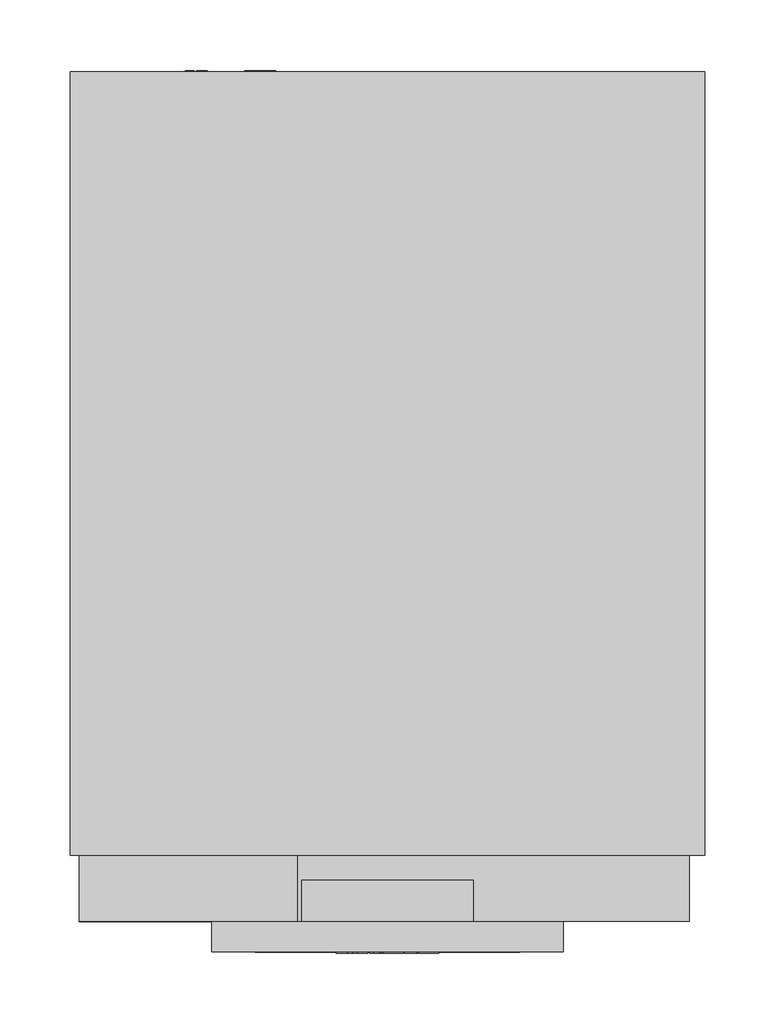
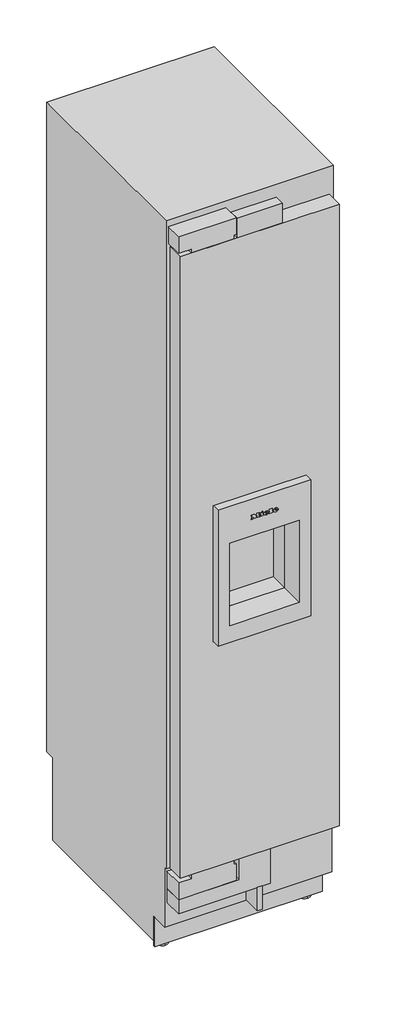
# Not in any storey: 1 proxy.
"""IFC4 building model written with IfcOpenShell, lengths in millimetres."""

import ifcopenshell
import ifcopenshell.guid

model = None  # the IFC model being written
_history = None  # IfcOwnerHistory: only IFC2X3 demands one
_inside = {}  # id of a spatial element -> (the spatial element, [elements in it])
_under = {}  # id of a project, library or spatial element -> (it, [spatial elements below it])
_declared = {}  # id of a project -> (the project, [libraries it declares])
_typed = {}  # id of a type object -> (the type object, [elements of that type])
_made_of = {}  # id of a material, layer set ... -> (it, [elements and type objects made of it])


def new_model(schema):
    """Start an empty IFC model of exactly this schema.

    Asked for "IFC4X3", IfcOpenShell would pick the latest addendum, in which some entities
    have other attributes; the version numbers below select the first issue.
    IFC2X3 requires an IfcOwnerHistory on every rooted entity: one is made here for all.
    """
    global model, _history
    if schema == "IFC4X3":
        model = ifcopenshell.file(schema_version=(4, 3, 0, 0))
    else:
        model = ifcopenshell.file(schema=schema)
    _inside.clear()
    _under.clear()
    _declared.clear()
    _typed.clear()
    _made_of.clear()
    _history = None
    if model.schema == "IFC2X3":
        org = make("IfcOrganization", Name="unknown")
        user = make(
            "IfcPersonAndOrganization",
            ThePerson=make("IfcPerson", FamilyName="unknown"),
            TheOrganization=org,
        )
        app = make(
            "IfcApplication",
            ApplicationDeveloper=org,
            Version="unknown",
            ApplicationFullName="unknown",
            ApplicationIdentifier="unknown",
        )
        _history = make(
            "IfcOwnerHistory",
            OwningUser=user,
            OwningApplication=app,
            ChangeAction="ADDED",
            CreationDate=0,
        )
    return model


def make(cls, **values):
    """One entity of the class cls with the attributes given. An attribute that is None is left unset."""
    return model.create_entity(
        cls, **{name: value for name, value in values.items() if value is not None}
    )


def rooted(cls, **values):
    """An entity with a GlobalId (a new one), such as an element, a storey or a relation."""
    return make(cls, GlobalId=ifcopenshell.guid.new(), OwnerHistory=_history, **values)


def si_unit(unit_type, name, prefix=None):
    """IfcSIUnit, for example si_unit("LENGTHUNIT", "METRE", prefix="MILLI")."""
    return make("IfcSIUnit", UnitType=unit_type, Prefix=prefix, Name=name)


def assignment(units):
    """IfcUnitAssignment: the units of a project."""
    return None if units is None else make("IfcUnitAssignment", Units=units)


def point(xyz):
    """IfcCartesianPoint."""
    return None if xyz is None else make("IfcCartesianPoint", Coordinates=xyz)


def direction(xyz):
    """IfcDirection."""
    return None if xyz is None else make("IfcDirection", DirectionRatios=xyz)


def frame(location, z_axis=None, x_axis=None):
    """IfcAxis2Placement3D, a coordinate frame: its origin and axes. An axis left out is left unset."""
    return make(
        "IfcAxis2Placement3D",
        Location=point(location),
        Axis=direction(z_axis),
        RefDirection=direction(x_axis),
    )


def frame_2d(location, x_axis=None):
    """IfcAxis2Placement2D, a coordinate frame in the plane: its origin and x axis."""
    return make(
        "IfcAxis2Placement2D", Location=point(location), RefDirection=direction(x_axis)
    )


def origin():
    """The frame at (0, 0, 0) with its axes left unset."""
    return frame((0.0, 0.0, 0.0))


def place(relative_to, where):
    """IfcLocalPlacement: puts the frame where relative to a parent placement (None: the world)."""
    return make(
        "IfcLocalPlacement", PlacementRelTo=relative_to, RelativePlacement=where
    )


def context(
    kind, dimensions, precision=None, world=None, true_north=None, identifier=None
):
    """IfcGeometricRepresentationContext, for example the 3D "Model" context."""
    return make(
        "IfcGeometricRepresentationContext",
        ContextIdentifier=identifier,
        ContextType=kind,
        CoordinateSpaceDimension=dimensions,
        Precision=precision,
        WorldCoordinateSystem=world,
        TrueNorth=true_north,
    )


def project(units=None, contexts=None):
    """IfcProject with its units and contexts."""
    return rooted(
        "IfcProject",
        Name="project",
        RepresentationContexts=contexts,
        UnitsInContext=assignment(units),
    )


def spatial(cls, under=None, at=None, **own):
    """A site, building, storey or space (cls), placed at a placement, below another one or the project."""
    s = rooted(cls, ObjectPlacement=at, **own)
    if under is not None:
        _under.setdefault(under.id(), (under, []))[1].append(s)
    return s


def polyline(points):
    """IfcPolyline through the points."""
    return make("IfcPolyline", Points=[point(p) for p in points])


def circle_curve(where, radius):
    """IfcCircle in the frame where."""
    return make("IfcCircle", Position=where, Radius=radius)


def ellipse_curve(where, semi_axis1, semi_axis2):
    """IfcEllipse in the frame where."""
    return make(
        "IfcEllipse", Position=where, SemiAxis1=semi_axis1, SemiAxis2=semi_axis2
    )


def trimmed(basis, trim1, trim2, sense, master):
    """IfcTrimmedCurve: the piece of a basis curve between two trims."""
    return make(
        "IfcTrimmedCurve",
        BasisCurve=basis,
        Trim1=trim1,
        Trim2=trim2,
        SenseAgreement=sense,
        MasterRepresentation=master,
    )


def segment(curve, same_sense, transition):
    """IfcCompositeCurveSegment."""
    return make(
        "IfcCompositeCurveSegment",
        Transition=transition,
        SameSense=same_sense,
        ParentCurve=curve,
    )


def composite_curve(segments, self_intersect=None):
    """IfcCompositeCurve: segments joined end to end."""
    return make("IfcCompositeCurve", Segments=segments, SelfIntersect=self_intersect)


def outline(outer, holes=None, kind="AREA"):
    """IfcArbitraryClosedProfileDef: a profile drawn as a closed curve; with holes, ...WithVoids."""
    if holes is None:
        return make("IfcArbitraryClosedProfileDef", ProfileType=kind, OuterCurve=outer)
    return make(
        "IfcArbitraryProfileDefWithVoids",
        ProfileType=kind,
        OuterCurve=outer,
        InnerCurves=holes,
    )


def extrude(swept, where, along, depth):
    """IfcExtrudedAreaSolid: the profile swept, set in the frame where, extruded along a direction by depth."""
    return make(
        "IfcExtrudedAreaSolid",
        SweptArea=swept,
        Position=where,
        ExtrudedDirection=direction(along),
        Depth=depth,
    )


def faces_of(points, faces, orient=None, outer=None):
    """IfcFace entities. A face is a list of loops; a loop is a list of indices into points, from 0.

    orient and outer hold one flag for each loop. By default every Orientation is true, the
    first loop of a face is its IfcFaceOuterBound and the others are IfcFaceBound.
    """
    made = []
    for i, loops in enumerate(faces):
        bounds = []
        for j, loop in enumerate(loops):
            is_outer = j == 0 if outer is None else outer[i][j]
            bounds.append(
                make(
                    "IfcFaceOuterBound" if is_outer else "IfcFaceBound",
                    Bound=make("IfcPolyLoop", Polygon=[points[k] for k in loop]),
                    Orientation=True if orient is None else orient[i][j],
                )
            )
        made.append(make("IfcFace", Bounds=bounds))
    return made


def faceted_brep(points, faces, orient=None, outer=None, voids=None):
    """IfcFacetedBrep: a solid bounded by flat faces; with voids (closed shells), ...WithVoids."""
    shared = [point(p) for p in points]
    hull = make("IfcClosedShell", CfsFaces=faces_of(shared, faces, orient, outer))
    if voids is None:
        return make("IfcFacetedBrep", Outer=hull)
    return make(
        "IfcFacetedBrepWithVoids",
        Outer=hull,
        Voids=[
            make(cls, CfsFaces=faces_of(shared, fs, o, b)) for cls, fs, o, b in voids
        ],
    )


def shape(context_of_items, identifier, shape_type, items):
    """IfcShapeRepresentation: the items that make up one representation, for example the "Body"."""
    return make(
        "IfcShapeRepresentation",
        ContextOfItems=context_of_items,
        RepresentationIdentifier=identifier,
        RepresentationType=shape_type,
        Items=items,
    )


def source(mapping_origin, context_of_items, identifier, shape_type, items):
    """IfcRepresentationMap: a shape defined once, which mapped items show again and again."""
    return make(
        "IfcRepresentationMap",
        MappingOrigin=mapping_origin,
        MappedRepresentation=shape(context_of_items, identifier, shape_type, items),
    )


def transform(
    local_origin,
    x_axis=None,
    y_axis=None,
    z_axis=None,
    scale=None,
    scale2=None,
    scale3=None,
    uniform=True,
):
    """IfcCartesianTransformationOperator3D, or its non-uniform kind. x_axis, y_axis, z_axis: its Axis1, 2, 3."""
    if uniform:
        return make(
            "IfcCartesianTransformationOperator3D",
            Axis1=direction(x_axis),
            Axis2=direction(y_axis),
            LocalOrigin=point(local_origin),
            Scale=scale,
            Axis3=direction(z_axis),
        )
    return make(
        "IfcCartesianTransformationOperator3DnonUniform",
        Axis1=direction(x_axis),
        Axis2=direction(y_axis),
        LocalOrigin=point(local_origin),
        Scale=scale,
        Axis3=direction(z_axis),
        Scale2=scale2,
        Scale3=scale3,
    )


def mapped(mapping_source, mapping_target):
    """IfcMappedItem: shows the shape of a source again, moved by a transform."""
    return make(
        "IfcMappedItem", MappingSource=mapping_source, MappingTarget=mapping_target
    )


def made_of(thing, what):
    """Note that an element or type object is made of a material, layer set ...; save() writes the relation."""
    if what is not None:
        _made_of.setdefault(what.id(), (what, []))[1].append(thing)
    return thing


def element(
    cls,
    number,
    at=None,
    inside=None,
    cuts=None,
    type_object=None,
    material=None,
    context=None,
    identifier="Body",
    shape_type=None,
    held_by="IfcProductDefinitionShape",
    body=None,
    shapes=None,
    **own,
):
    """One element of the class cls, such as IfcWall. Its Tag is "e" and its number.

    at: its placement. inside: the storey or other place that contains it. cuts: it is an
    opening in that element (IfcRelVoidsElement). A single representation is given by context,
    identifier, shape_type and body (its items); several are given by shapes. held_by: the class
    of the entity that holds the representations. save() writes the other relations.
    """
    e = rooted(cls, Tag="e%d" % number, ObjectPlacement=at, **own)
    if body is not None:
        shapes = [shape(context, identifier, shape_type, body)]
    if shapes is not None:
        e.Representation = make(held_by, Representations=shapes)
    if inside is not None:
        _inside.setdefault(inside.id(), (inside, []))[1].append(e)
    if cuts is not None:
        rooted(
            "IfcRelVoidsElement", RelatingBuildingElement=cuts, RelatedOpeningElement=e
        )
    if type_object is not None:
        _typed.setdefault(type_object.id(), (type_object, []))[1].append(e)
    return made_of(e, material)


def aggregate(whole, parts):
    """IfcRelAggregates: a whole, such as a stair, and the parts it consists of."""
    return rooted("IfcRelAggregates", RelatingObject=whole, RelatedObjects=parts)


def save(model, path):
    """Write the relations noted so far, then the file.

    IfcRelAggregates (storeys below a building ...), IfcRelContainedInSpatialStructure (elements
    in a storey), IfcRelDefinesByType, IfcRelAssociatesMaterial and IfcRelDeclares: one each for
    every whole, place, type object, material and project.
    """
    for whole, parts in _under.values():
        aggregate(whole, parts)
    for where, things in _inside.values():
        rooted(
            "IfcRelContainedInSpatialStructure",
            RelatedElements=things,
            RelatingStructure=where,
        )
    for kind, things in _typed.values():
        rooted("IfcRelDefinesByType", RelatedObjects=things, RelatingType=kind)
    for what, things in _made_of.values():
        rooted("IfcRelAssociatesMaterial", RelatedObjects=things, RelatingMaterial=what)
    for by, libraries in _declared.values():
        rooted("IfcRelDeclares", RelatingContext=by, RelatedDefinitions=libraries)
    model.write(path)


def plane_surface(at):
    """IfcPlane: the flat surface through the origin of the frame at, square to its z axis."""
    return make("IfcPlane", Position=at)


def cylinder_surface(at, radius):
    """IfcCylindricalSurface: all points at the distance radius from the z axis of the frame at."""
    return make("IfcCylindricalSurface", Position=at, Radius=radius)


def revolved_surface(curve, axis_point, axis_direction):
    """IfcSurfaceOfRevolution: the curve turned about the line through axis_point along axis_direction."""
    return make(
        "IfcSurfaceOfRevolution",
        SweptCurve=make("IfcArbitraryOpenProfileDef", ProfileType="CURVE", Curve=curve),
        AxisPosition=make("IfcAxis1Placement", Location=point(axis_point), Axis=direction(axis_direction)),
    )


def extruded_surface(curve, direction_of_extrusion, depth):
    """IfcSurfaceOfLinearExtrusion: the curve pushed along a direction by depth."""
    return make(
        "IfcSurfaceOfLinearExtrusion",
        SweptCurve=make("IfcArbitraryOpenProfileDef", ProfileType="CURVE", Curve=curve),
        ExtrudedDirection=direction(direction_of_extrusion),
        Depth=depth,
    )


def advanced_brep(points, edges, surfaces, faces):
    """IfcAdvancedBrep: a solid bounded by faces that lie on surfaces and meet in shared edges.

    An edge is (start, end): straight between two places in points (the first is 0);
    or (start, end, curve); or (start, end, curve, False) where it runs against its curve.
    A face is (place in surfaces, loops), or (place, loops, False) where it looks against
    its surface's normal. A loop lists edges by number (the first is 1), with a minus sign
    where the edge is run from its end to its start. The first loop is the outer one.
    """
    corners = [point(p) for p in points]
    vertices = [make("IfcVertexPoint", VertexGeometry=c) for c in corners]
    made = []
    for start, end, *more in edges:
        made.append(
            make(
                "IfcEdgeCurve",
                EdgeStart=vertices[start],
                EdgeEnd=vertices[end],
                EdgeGeometry=more[0] if more else make("IfcPolyline", Points=[corners[start], corners[end]]),
                SameSense=more[1] if len(more) > 1 else True,
            )
        )
    hull = []
    for where, loops, *sense in faces:
        bounds = []
        for j, loop in enumerate(loops):
            ring = [make("IfcOrientedEdge", EdgeElement=made[abs(k) - 1], Orientation=k > 0) for k in loop]
            bounds.append(
                make(
                    "IfcFaceOuterBound" if j == 0 else "IfcFaceBound",
                    Bound=make("IfcEdgeLoop", EdgeList=ring),
                    Orientation=True,
                )
            )
        hull.append(make("IfcAdvancedFace", Bounds=bounds, FaceSurface=surfaces[where], SameSense=sense[0] if sense else True))
    return make("IfcAdvancedBrep", Outer=make("IfcClosedShell", CfsFaces=hull))


def specialty_equipment_33c10941(model_context):
    return source(origin(), model_context, "Body", "SolidModel", [
        extrude(outline(polyline([(-6.5, 54.0), (6.5, 54.0), (6.5, 0.0), (-6.5, 0.0), (-6.5, 54.0)])), frame((0.0, 0.0, 99.0), z_axis=(0.0, 0.0, 1.0), x_axis=(1.0, 0.0, 0.0)), (0.0, 0.0, 1.0), 67.0),
        faceted_brep([(125.0, -21.7, 1295.0), (-125.0, -21.7, 1295.0), (-125.0, -21.7, 908.0), (125.0, -21.7, 908.0), (94.0, -21.7, 1190.0), (94.0, -21.7, 956.0), (-94.0, -21.7, 956.0), (-94.0, -21.7, 1190.0), (125.0, 47.0, 1295.0), (125.0, 47.0, 908.0), (-125.0, 47.0, 908.0), (-125.0, 47.0, 1295.0), (94.0, 47.0, 1190.0), (-94.0, 47.0, 1190.0), (-94.0, 47.0, 956.0), (94.0, 47.0, 956.0), (-94.0, -11.7943775, 1190.0), (94.0, -11.7943775, 1190.0), (-94.0, -11.7943775, 956.0), (94.0, -11.7943775, 956.0)], [[[0, 1, 2, 3], [4, 5, 6, 7]], [[8, 9, 10, 11], [12, 13, 14, 15]], [[0, 3, 9, 8]], [[3, 2, 10, 9]], [[2, 1, 11, 10]], [[1, 0, 8, 11]], [[4, 7, 16, 13, 12, 17]], [[7, 6, 18, 14, 13, 16]], [[6, 5, 19, 15, 14, 18]], [[5, 4, 17, 12, 15, 19]]]),
        extrude(outline(polyline([(2036.0, 214.5), (2036.0, -214.5), (265.0, -214.5), (265.0, 214.5), (2036.0, 214.5)]), holes=[polyline([(1295.0, 125.0), (908.0, 125.0), (908.0, -125.0), (1295.0, -125.0), (1295.0, 125.0)])]), frame((0.0, 0.0, 0.0), z_axis=(0.0, 1.0, 0.0), x_axis=(0.0, 0.0, 1.0)), (0.0, 0.0, 1.0), 47.0),
        faceted_brep([(-158.0, 47.0, 863.0), (-158.0, 47.0, 1335.0), (-158.0, 239.0, 1335.0), (-158.0, 239.0, 987.0), (-158.0, 140.0, 863.0), (158.0, 47.0, 863.0), (158.0, 140.0, 863.0), (158.0, 239.0, 987.0), (158.0, 239.0, 1335.0), (158.0, 47.0, 1335.0), (94.0, 47.0, 1190.0), (94.0, 47.0, 956.0), (-94.0, 47.0, 956.0), (-94.0, 47.0, 1190.0), (94.0, 100.0, 1190.0), (-94.0, 100.0, 1190.0), (-94.0, 100.0, 956.0), (94.0, 100.0, 956.0)], [[[0, 1, 2, 3, 4]], [[5, 6, 7, 8, 9]], [[0, 4, 6, 5]], [[4, 3, 7, 6]], [[3, 2, 8, 7]], [[2, 1, 9, 8]], [[1, 0, 5, 9], [10, 11, 12, 13]], [[14, 15, 16, 17]], [[14, 17, 11, 10]], [[17, 16, 12, 11]], [[16, 15, 13, 12]], [[15, 14, 10, 13]]]),
        extrude(outline(polyline([(-61.0, 29.0), (61.0, 29.0), (61.0, 0.0), (-61.0, 0.0), (-61.0, 29.0)])), frame((0.0, 0.0, 2036.0), z_axis=(0.0, 0.0, 1.0), x_axis=(1.0, 0.0, 0.0)), (0.0, 0.0, 1.0), 56.0),
        advanced_brep(
        [(28.472, -22.7, 1241.344), (28.472, -22.7, 1242.556), (36.5, -22.7, 1242.556), (22.532, -22.7, 1242.556), (25.832, -22.7, 1238.5), (36.296, -22.7, 1241.344), (32.672, -22.7, 1241.344), (29.816, -22.7, 1240.0), (28.472, -22.7, 1244.092), (28.472, -22.7, 1245.4), (30.524, -22.7, 1245.4), (30.524, -22.7, 1244.092), (28.472, -21.7, 1241.344), (29.816, -21.7, 1240.0), (32.672, -21.7, 1241.344), (36.296, -21.7, 1241.344), (25.832, -21.7, 1238.5), (22.532, -21.7, 1242.556), (36.5, -21.7, 1242.556), (28.472, -21.7, 1242.556), (28.472, -21.7, 1244.092), (30.524, -21.7, 1244.092), (30.524, -21.7, 1245.4), (28.472, -21.7, 1245.4)],
        [
            (0, 1),
            (1, 2),
            (2, 3, ellipse_curve(frame((29.516, -22.7, 1242.556), z_axis=(0.0, -1.0, 0.0), x_axis=(-1.0, 0.0, 0.0)), 6.984, 5.772)),
            (3, 4, circle_curve(frame((27.1760655, -22.7, 1242.964), z_axis=(0.0, -1.0, 0.0), x_axis=(0.0, 0.0, -1.0)), 4.6619532)),
            (4, 5, circle_curve(frame((29.3761904, -22.7, 1246.132), z_axis=(0.0, -1.0, 0.0), x_axis=(0.0, 0.0, -1.0)), 8.4147911)),
            (5, 6),
            (6, 7, circle_curve(frame((30.4025882, -22.7, 1242.46), z_axis=(0.0, 1.0, 0.0), x_axis=(0.0, 0.0, -1.0)), 2.5289693)),
            (7, 0, circle_curve(frame((29.816, -22.7, 1241.344), z_axis=(0.0, 1.0, 0.0), x_axis=(0.0, 0.0, -1.0)), 1.344)),
            (8, 9),
            (9, 10, circle_curve(frame((29.498, -22.7, 1245.4), z_axis=(0.0, 1.0, 0.0), x_axis=(0.0, 0.0, -1.0)), 1.026)),
            (10, 11),
            (11, 8),
            (12, 13, circle_curve(frame((29.816, -21.7, 1241.344), z_axis=(0.0, -1.0, 0.0), x_axis=(0.0, 0.0, -1.0)), 1.344)),
            (13, 14, circle_curve(frame((30.4025882, -21.7, 1242.46), z_axis=(0.0, -1.0, 0.0), x_axis=(0.0, 0.0, -1.0)), 2.5289693)),
            (14, 15),
            (15, 16, circle_curve(frame((29.3761904, -21.7, 1246.132), z_axis=(0.0, 1.0, 0.0), x_axis=(0.0, 0.0, -1.0)), 8.4147911)),
            (16, 17, circle_curve(frame((27.1760655, -21.7, 1242.964), z_axis=(0.0, 1.0, 0.0), x_axis=(0.0, 0.0, -1.0)), 4.6619532)),
            (17, 18, ellipse_curve(frame((29.516, -21.7, 1242.556), z_axis=(0.0, 1.0, 0.0), x_axis=(-1.0, 0.0, 0.0)), 6.984, 5.772)),
            (18, 19),
            (19, 12),
            (20, 21),
            (21, 22),
            (22, 23, circle_curve(frame((29.498, -21.7, 1245.4), z_axis=(0.0, -1.0, 0.0), x_axis=(0.0, 0.0, -1.0)), 1.026)),
            (23, 20),
            (0, 12),
            (19, 1),
            (18, 2),
            (5, 15),
            (14, 6),
            (17, 3),
            (13, 7),
            (16, 4),
            (8, 20),
            (23, 9),
            (22, 10),
            (21, 11),
        ],
        [
            plane_surface(frame((28.472, -22.7, 1242.556), z_axis=(0.0, -1.0, 0.0), x_axis=(0.0, 0.0, 1.0))),
            plane_surface(frame((28.472, -21.7, 1242.556), z_axis=(0.0, 1.0, 0.0), x_axis=(0.0, 0.0, -1.0))),
            plane_surface(frame((28.472, -22.7, 1241.344), z_axis=(1.0, 0.0, 0.0), x_axis=(0.0, 1.0, 0.0))),
            plane_surface(frame((28.472, -22.7, 1242.556), z_axis=(0.0, 0.0, -1.0), x_axis=(0.0, 1.0, 0.0))),
            plane_surface(frame((36.296, -22.7, 1241.344), z_axis=(0.0, 0.0, 1.0), x_axis=(0.0, 1.0, 0.0))),
            extruded_surface(trimmed(ellipse_curve(frame((29.516, -20.7, 1242.556), z_axis=(0.0, -1.0, 0.0), x_axis=(-1.0, 0.0, 0.0)), 6.984, 5.772), [point((36.5, -20.7, 1242.556))], [point((22.532, -20.7, 1242.556))], True, "CARTESIAN"), (0.0, -1.0, 0.0), 1.0),
            revolved_surface(polyline([(30.4025882, -21.7, 1239.9310307), (30.4025882, -22.7, 1239.9310307)]), (30.4025882, -21.7, 1242.46), (0.0, 1.0, 0.0)),
            revolved_surface(polyline([(29.816, -21.7, 1240.0), (29.816, -22.7, 1240.0)]), (29.816, -21.7, 1241.344), (0.0, 1.0, 0.0)),
            cylinder_surface(frame((27.1760655, -21.7, 1242.964), z_axis=(0.0, -1.0, 0.0), x_axis=(0.0, 0.0, -1.0)), 4.6619532),
            cylinder_surface(frame((29.3761904, -21.7, 1246.132), z_axis=(0.0, -1.0, 0.0), x_axis=(0.0, 0.0, -1.0)), 8.4147911),
            plane_surface(frame((28.472, -22.7, 1244.092), z_axis=(1.0, 0.0, 0.0), x_axis=(0.0, 1.0, 0.0))),
            revolved_surface(polyline([(29.498, -21.7, 1244.374), (29.498, -22.7, 1244.374)]), (29.498, -21.7, 1245.4), (0.0, 1.0, 0.0)),
            plane_surface(frame((30.524, -22.7, 1245.4), z_axis=(-1.0, 0.0, 0.0), x_axis=(0.0, 1.0, 0.0))),
            plane_surface(frame((30.524, -22.7, 1244.092), z_axis=(0.0, 0.0, 1.0), x_axis=(0.0, 1.0, 0.0))),
        ],
        [
            (0, [[1, 2, 3, 4, 5, 6, 7, 8], [9, 10, 11, 12]]),
            (1, [[13, 14, 15, 16, 17, 18, 19, 20], [21, 22, 23, 24]]),
            (2, [[-1, 25, -20, 26]]),
            (3, [[-2, -26, -19, 27]]),
            (4, [[-6, 28, -15, 29]]),
            (5, [[-3, -27, -18, 30]]),
            (6, [[-7, -29, -14, 31]]),
            (7, [[-8, -31, -13, -25]]),
            (8, [[-4, -30, -17, 32]]),
            (9, [[-5, -32, -16, -28]]),
            (10, [[-9, 33, -24, 34]]),
            (11, [[-10, -34, -23, 35]]),
            (12, [[-11, -35, -22, 36]]),
            (13, [[-12, -36, -21, -33]]),
        ],
    ),
        advanced_brep(
        [(3.428, -22.7, 1241.344), (3.428, -22.7, 1242.556), (11.456, -22.7, 1242.556), (-2.512, -22.7, 1242.556), (0.788, -22.7, 1238.5), (11.252, -22.7, 1241.344), (7.628, -22.7, 1241.344), (4.772, -22.7, 1240.0), (3.428, -22.7, 1244.092), (3.428, -22.7, 1245.4), (5.48, -22.7, 1245.4), (5.48, -22.7, 1244.092), (3.428, -21.7, 1241.344), (4.772, -21.7, 1240.0), (7.628, -21.7, 1241.344), (11.252, -21.7, 1241.344), (0.788, -21.7, 1238.5), (-2.512, -21.7, 1242.556), (11.456, -21.7, 1242.556), (3.428, -21.7, 1242.556), (3.428, -21.7, 1244.092), (5.48, -21.7, 1244.092), (5.48, -21.7, 1245.4), (3.428, -21.7, 1245.4)],
        [
            (0, 1),
            (1, 2),
            (2, 3, ellipse_curve(frame((4.472, -22.7, 1242.556), z_axis=(0.0, -1.0, 0.0), x_axis=(-1.0, 0.0, 0.0)), 6.984, 5.772)),
            (3, 4, circle_curve(frame((2.1320655, -22.7, 1242.964), z_axis=(0.0, -1.0, 0.0), x_axis=(0.0, 0.0, -1.0)), 4.6619532)),
            (4, 5, circle_curve(frame((4.3321904, -22.7, 1246.132), z_axis=(0.0, -1.0, 0.0), x_axis=(0.0, 0.0, -1.0)), 8.4147911)),
            (5, 6),
            (6, 7, circle_curve(frame((5.3585882, -22.7, 1242.46), z_axis=(0.0, 1.0, 0.0), x_axis=(0.0, 0.0, -1.0)), 2.5289693)),
            (7, 0, circle_curve(frame((4.772, -22.7, 1241.344), z_axis=(0.0, 1.0, 0.0), x_axis=(0.0, 0.0, -1.0)), 1.344)),
            (8, 9),
            (9, 10, circle_curve(frame((4.454, -22.7, 1245.4), z_axis=(0.0, 1.0, 0.0), x_axis=(0.0, 0.0, -1.0)), 1.026)),
            (10, 11),
            (11, 8),
            (12, 13, circle_curve(frame((4.772, -21.7, 1241.344), z_axis=(0.0, -1.0, 0.0), x_axis=(0.0, 0.0, -1.0)), 1.344)),
            (13, 14, circle_curve(frame((5.3585882, -21.7, 1242.46), z_axis=(0.0, -1.0, 0.0), x_axis=(0.0, 0.0, -1.0)), 2.5289693)),
            (14, 15),
            (15, 16, circle_curve(frame((4.3321904, -21.7, 1246.132), z_axis=(0.0, 1.0, 0.0), x_axis=(0.0, 0.0, -1.0)), 8.4147911)),
            (16, 17, circle_curve(frame((2.1320655, -21.7, 1242.964), z_axis=(0.0, 1.0, 0.0), x_axis=(0.0, 0.0, -1.0)), 4.6619532)),
            (17, 18, ellipse_curve(frame((4.472, -21.7, 1242.556), z_axis=(0.0, 1.0, 0.0), x_axis=(-1.0, 0.0, 0.0)), 6.984, 5.772)),
            (18, 19),
            (19, 12),
            (20, 21),
            (21, 22),
            (22, 23, circle_curve(frame((4.454, -21.7, 1245.4), z_axis=(0.0, -1.0, 0.0), x_axis=(0.0, 0.0, -1.0)), 1.026)),
            (23, 20),
            (0, 12),
            (19, 1),
            (18, 2),
            (5, 15),
            (14, 6),
            (17, 3),
            (13, 7),
            (16, 4),
            (8, 20),
            (23, 9),
            (22, 10),
            (21, 11),
        ],
        [
            plane_surface(frame((3.428, -22.7, 1242.556), z_axis=(0.0, -1.0, 0.0), x_axis=(0.0, 0.0, 1.0))),
            plane_surface(frame((3.428, -21.7, 1242.556), z_axis=(0.0, 1.0, 0.0), x_axis=(0.0, 0.0, -1.0))),
            plane_surface(frame((3.428, -22.7, 1241.344), z_axis=(1.0, 0.0, 0.0), x_axis=(0.0, 1.0, 0.0))),
            plane_surface(frame((3.428, -22.7, 1242.556), z_axis=(0.0, 0.0, -1.0), x_axis=(0.0, 1.0, 0.0))),
            plane_surface(frame((11.252, -22.7, 1241.344), z_axis=(0.0, 0.0, 1.0), x_axis=(0.0, 1.0, 0.0))),
            extruded_surface(trimmed(ellipse_curve(frame((4.472, -20.7, 1242.556), z_axis=(0.0, -1.0, 0.0), x_axis=(-1.0, 0.0, 0.0)), 6.984, 5.772), [point((11.456, -20.7, 1242.556))], [point((-2.512, -20.7, 1242.556))], True, "CARTESIAN"), (0.0, -1.0, 0.0), 1.0),
            revolved_surface(polyline([(5.3585882, -21.7, 1239.9310307), (5.3585882, -22.7, 1239.9310307)]), (5.3585882, -21.7, 1242.46), (0.0, 1.0, 0.0)),
            revolved_surface(polyline([(4.772, -21.7, 1240.0), (4.772, -22.7, 1240.0)]), (4.772, -21.7, 1241.344), (0.0, 1.0, 0.0)),
            cylinder_surface(frame((2.1320655, -21.7, 1242.964), z_axis=(0.0, -1.0, 0.0), x_axis=(0.0, 0.0, -1.0)), 4.6619532),
            cylinder_surface(frame((4.3321904, -21.7, 1246.132), z_axis=(0.0, -1.0, 0.0), x_axis=(0.0, 0.0, -1.0)), 8.4147911),
            plane_surface(frame((3.428, -22.7, 1244.092), z_axis=(1.0, 0.0, 0.0), x_axis=(0.0, 1.0, 0.0))),
            revolved_surface(polyline([(4.454, -21.7, 1244.374), (4.454, -22.7, 1244.374)]), (4.454, -21.7, 1245.4), (0.0, 1.0, 0.0)),
            plane_surface(frame((5.48, -22.7, 1245.4), z_axis=(-1.0, 0.0, 0.0), x_axis=(0.0, 1.0, 0.0))),
            plane_surface(frame((5.48, -22.7, 1244.092), z_axis=(0.0, 0.0, 1.0), x_axis=(0.0, 1.0, 0.0))),
        ],
        [
            (0, [[1, 2, 3, 4, 5, 6, 7, 8], [9, 10, 11, 12]]),
            (1, [[13, 14, 15, 16, 17, 18, 19, 20], [21, 22, 23, 24]]),
            (2, [[-1, 25, -20, 26]]),
            (3, [[-2, -26, -19, 27]]),
            (4, [[-6, 28, -15, 29]]),
            (5, [[-3, -27, -18, 30]]),
            (6, [[-7, -29, -14, 31]]),
            (7, [[-8, -31, -13, -25]]),
            (8, [[-4, -30, -17, 32]]),
            (9, [[-5, -32, -16, -28]]),
            (10, [[-9, 33, -24, 34]]),
            (11, [[-10, -34, -23, 35]]),
            (12, [[-11, -35, -22, 36]]),
            (13, [[-12, -36, -21, -33]]),
        ],
    ),
        extrude(outline(polyline([(1249.792, -9.688), (1247.848, -8.776), (1249.744, -4.708), (1251.688, -5.608), (1249.792, -9.688)])), frame((0.0, -22.7, 0.0), z_axis=(0.0, 1.0, 0.0), x_axis=(0.0, 0.0, 1.0)), (0.0, 0.0, 1.0), 1.0),
        extrude(outline(polyline([(1247.584, -12.652), (1245.436, -12.652), (1245.436, -11.224), (1240.516, -11.224), (1240.516, -12.652), (1238.5, -12.652), (1238.5, -3.184), (1240.516, -3.184), (1240.516, -4.576), (1247.584, -4.576), (1247.584, -12.652)])), frame((0.0, -22.7, 0.0), z_axis=(0.0, 1.0, 0.0), x_axis=(0.0, 0.0, 1.0)), (0.0, 0.0, 1.0), 1.0),
        extrude(outline(polyline([(1248.544, 12.128), (1248.544, 13.568), (1240.516, 13.568), (1240.516, 12.128), (1238.5, 12.128), (1238.5, 21.86), (1240.516, 21.86), (1240.516, 20.384), (1250.5, 20.384), (1250.5, 12.128), (1248.544, 12.128)])), frame((0.0, -22.7, 0.0), z_axis=(0.0, 1.0, 0.0), x_axis=(0.0, 0.0, 1.0)), (0.0, 0.0, 1.0), 1.0),
        extrude(outline(polyline([(1248.544, -36.568), (1248.544, -35.116), (1240.516, -35.116), (1240.516, -36.568), (1238.5, -36.568), (1238.5, -31.288), (1240.516, -31.288), (1240.516, -32.728), (1245.5951247, -32.728), (1238.5, -27.364), (1245.8152223, -21.976), (1240.516, -21.976), (1240.516, -23.452), (1238.5, -23.452), (1238.5, -13.876), (1240.516, -13.876), (1240.516, -15.4), (1248.544, -15.4), (1248.544, -13.876), (1250.5, -13.876), (1250.5, -21.184), (1246.0, -24.688), (1250.5, -28.204), (1250.5, -36.568), (1248.544, -36.568)])), frame((0.0, -22.7, 0.0), z_axis=(0.0, 1.0, 0.0), x_axis=(0.0, 0.0, 1.0)), (0.0, 0.0, 1.0), 1.0),
        extrude(outline(polyline([(519.0, 1998.0), (519.0, 1799.0), (447.0526316, 1799.0), (422.0, 1867.0), (201.7448904, 1867.0), (157.0, 1939.0), (87.0, 1949.0), (87.0, 1998.0), (519.0, 1998.0)])), frame((-179.5, 0.0, 0.0), z_axis=(1.0, 0.0, 0.0), x_axis=(0.0, 1.0, 0.0)), (0.0, 0.0, 1.0), 359.0),
        extrude(outline(polyline([(196.9886114, 1875.0), (195.809433, 1875.0), (158.6921935, 1934.4), (159.8713719, 1934.4), (196.9886114, 1875.0)])), frame((-69.0, 0.0, 0.0), z_axis=(1.0, 0.0, 0.0), x_axis=(0.0, 1.0, 0.0)), (0.0, 0.0, 1.0), 138.0),
        extrude(outline(polyline([(46.0510837, -89.101717), (37.4134902, -91.1745179), (46.0453554, -93.6868463), (46.0453554, -95.5601414), (37.4089549, -98.0799633), (46.0493903, -100.1581876), (46.0493903, -101.4649805), (36.0005458, -98.7156324), (36.0005458, -97.372208), (44.8261022, -94.6342221), (35.9987467, -92.0620509), (35.9987287, -90.5451466), (46.0510837, -87.800191), (46.0510837, -89.101717)])), frame((0.0, 604.0, 0.0), z_axis=(0.0, 1.0, 0.0), x_axis=(0.0, 0.0, 1.0)), (0.0, 0.0, 1.0), 1.0),
        extrude(outline(polyline([(46.0485238, -80.7401503), (41.1363122, -80.7401503), (46.0468162, -85.884602), (46.0468162, -87.6328316), (41.9156889, -83.3260313), (36.000035, -87.8032231), (36.000035, -86.2795519), (41.0742849, -82.4391666), (39.4525334, -80.7395503), (35.9999292, -80.7395503), (35.9999292, -79.4795491), (46.0485238, -79.4795491), (46.0485238, -80.7401503)])), frame((0.0, 604.0, 0.0), z_axis=(0.0, 1.0, 0.0), x_axis=(0.0, 0.0, 1.0)), (0.0, 0.0, 1.0), 1.0),
        extrude(outline(composite_curve([segment(trimmed(circle_curve(frame_2d((41.0, -90.0)), 7.5), [point((33.5, -90.0))], [point((48.5, -90.0))], False, "CARTESIAN"), True, "CONTINUOUS"), segment(trimmed(circle_curve(frame_2d((41.0, -90.0)), 7.5), [point((48.5, -90.0))], [point((33.5, -90.0))], False, "CARTESIAN"), True, "CONTINUOUS")], self_intersect=False)), frame((0.0, 577.0, 0.0), z_axis=(0.0, 1.0, 0.0), x_axis=(0.0, 0.0, 1.0)), (0.0, 0.0, 1.0), 27.0),
        extrude(outline(polyline([(2095.0, -219.0), (2047.0, -219.0), (2047.0, -185.0), (2036.5, -185.0), (2036.5, -70.0), (2047.0, -70.0), (2047.0, -64.0), (2095.0, -64.0), (2095.0, -219.0)])), frame((0.0, 0.0, 0.0), z_axis=(0.0, 1.0, 0.0), x_axis=(0.0, 0.0, 1.0)), (0.0, 0.0, 1.0), 47.0),
        extrude(outline(polyline([(254.0, -219.0), (206.0, -219.0), (206.0, -64.0), (254.0, -64.0), (254.0, -70.0), (264.0, -70.0), (264.0, -185.0), (254.0, -185.0), (254.0, -219.0)])), frame((0.0, 0.0, 0.0), z_axis=(0.0, 1.0, 0.0), x_axis=(0.0, 0.0, 1.0)), (0.0, 0.0, 1.0), 54.0),
        extrude(outline(polyline([(265.0, -55.5), (205.0, -55.5), (205.0, -219.0), (166.0, -219.0), (166.0, 28.5), (265.0, 28.5), (265.0, -55.5)])), frame((0.0, 0.0, 0.0), z_axis=(0.0, 1.0, 0.0), x_axis=(0.0, 0.0, 1.0)), (0.0, 0.0, 1.0), 54.0),
        extrude(outline(polyline([(99.0373308, -135.2645771), (97.7615342, -135.2645771), (97.7615342, -129.3195541), (94.7968516, -129.3195541), (94.7968516, -134.969579), (93.5246295, -134.969579), (93.5246295, -129.3415693), (90.2570046, -129.3415693), (90.2570046, -135.4619689), (88.9546219, -135.4619689), (88.9546219, -128.0443524), (99.0373308, -128.0443524), (99.0373308, -135.2645771)])), frame((0.0, 604.0, 0.0), z_axis=(0.0, 1.0, 0.0), x_axis=(0.0, 0.0, 1.0)), (0.0, 0.0, 1.0), 1.0),
        extrude(outline(polyline([(99.0458, -138.5619704), (90.2663944, -138.5619704), (90.2663944, -143.6145879), (89.0134802, -143.6145879), (89.0134802, -137.3423809), (99.0458, -137.3423809), (99.0458, -138.5619704)])), frame((0.0, 604.0, 0.0), z_axis=(0.0, 1.0, 0.0), x_axis=(0.0, 0.0, 1.0)), (0.0, 0.0, 1.0), 1.0),
        extrude(outline(composite_curve([segment(trimmed(circle_curve(frame_2d((94.0, -135.5)), 7.5), [point((86.5, -135.5))], [point((101.5, -135.5))], False, "CARTESIAN"), True, "CONTINUOUS"), segment(trimmed(circle_curve(frame_2d((94.0, -135.5)), 7.5), [point((101.5, -135.5))], [point((86.5, -135.5))], False, "CARTESIAN"), True, "CONTINUOUS")], self_intersect=False)), frame((0.0, 577.0, 0.0), z_axis=(0.0, 1.0, 0.0), x_axis=(0.0, 0.0, 1.0)), (0.0, 0.0, 1.0), 27.0),
        extrude(outline(polyline([(-225.5, 104.0), (225.5, 104.0), (225.5, 99.0), (-225.5, 99.0), (-225.5, 104.0)])), frame((0.0, 0.0, 14.0), z_axis=(0.0, 0.0, 1.0), x_axis=(1.0, 0.0, 0.0)), (0.0, 0.0, 1.0), 83.0),
        advanced_brep(
        [(-191.5, 139.0, 0.0), (-191.5, 109.0, 0.0), (-191.5, 139.0, 7.0), (-191.5, 109.0, 7.0), (-191.5, 128.7, 7.0), (-191.5, 119.3, 7.0), (-191.5, 128.7, 28.0), (-191.5, 119.3, 28.0)],
        [
            (0, 1, circle_curve(frame((-191.5, 124.0, 0.0), z_axis=(0.0, 0.0, -1.0), x_axis=(1.0, 0.0, 0.0)), 15.0)),
            (1, 0, circle_curve(frame((-191.5, 124.0, 0.0), z_axis=(0.0, 0.0, -1.0), x_axis=(1.0, 0.0, 0.0)), 15.0)),
            (2, 3, circle_curve(frame((-191.5, 124.0, 7.0), z_axis=(0.0, 0.0, 1.0), x_axis=(1.0, 0.0, 0.0)), 15.0)),
            (3, 2, circle_curve(frame((-191.5, 124.0, 7.0), z_axis=(0.0, 0.0, 1.0), x_axis=(1.0, 0.0, 0.0)), 15.0)),
            (4, 5, circle_curve(frame((-191.5, 124.0, 7.0), z_axis=(0.0, 0.0, -1.0), x_axis=(0.0, -1.0, 0.0)), 4.7)),
            (5, 4, circle_curve(frame((-191.5, 124.0, 7.0), z_axis=(0.0, 0.0, -1.0), x_axis=(0.0, -1.0, 0.0)), 4.7)),
            (0, 2),
            (3, 1),
            (6, 7, circle_curve(frame((-191.5, 124.0, 28.0), z_axis=(0.0, 0.0, 1.0), x_axis=(0.0, -1.0, 0.0)), 4.7)),
            (7, 6, circle_curve(frame((-191.5, 124.0, 28.0), z_axis=(0.0, 0.0, 1.0), x_axis=(0.0, -1.0, 0.0)), 4.7)),
            (7, 5),
            (4, 6),
        ],
        [
            plane_surface(frame((-176.5, 124.0, 0.0), z_axis=(0.0, 0.0, -1.0), x_axis=(0.0, -1.0, 0.0))),
            plane_surface(frame((-176.5, 124.0, 7.0), z_axis=(0.0, 0.0, 1.0), x_axis=(0.0, 1.0, 0.0))),
            cylinder_surface(frame((-191.5, 124.0, 7.0), z_axis=(0.0, 0.0, -1.0), x_axis=(1.0, 0.0, 0.0)), 15.0),
            plane_surface(frame((-191.5, 119.3, 28.0), z_axis=(0.0, 0.0, 1.0), x_axis=(1.0, 0.0, 0.0))),
            cylinder_surface(frame((-191.5, 124.0, 28.0), z_axis=(0.0, 0.0, -1.0), x_axis=(0.0, -1.0, 0.0)), 4.7),
        ],
        [
            (0, [[1, 2]]),
            (1, [[3, 4], [5, 6]]),
            (2, [[-1, 7, -4, 8]]),
            (2, [[-2, -8, -3, -7]]),
            (3, [[9, 10]]),
            (4, [[-10, 11, -5, 12]]),
            (4, [[-9, -12, -6, -11]]),
        ],
    ),
        advanced_brep(
        [(191.5, 139.0, 0.0), (191.5, 109.0, 0.0), (191.5, 139.0, 7.0), (191.5, 109.0, 7.0), (191.5, 128.7, 7.0), (191.5, 119.3, 7.0), (191.5, 128.7, 28.0), (191.5, 119.3, 28.0)],
        [
            (0, 1, circle_curve(frame((191.5, 124.0, 0.0), z_axis=(0.0, 0.0, -1.0), x_axis=(1.0, 0.0, 0.0)), 15.0)),
            (1, 0, circle_curve(frame((191.5, 124.0, 0.0), z_axis=(0.0, 0.0, -1.0), x_axis=(1.0, 0.0, 0.0)), 15.0)),
            (2, 3, circle_curve(frame((191.5, 124.0, 7.0), z_axis=(0.0, 0.0, 1.0), x_axis=(1.0, 0.0, 0.0)), 15.0)),
            (3, 2, circle_curve(frame((191.5, 124.0, 7.0), z_axis=(0.0, 0.0, 1.0), x_axis=(1.0, 0.0, 0.0)), 15.0)),
            (4, 5, circle_curve(frame((191.5, 124.0, 7.0), z_axis=(0.0, 0.0, -1.0), x_axis=(0.0, -1.0, 0.0)), 4.7)),
            (5, 4, circle_curve(frame((191.5, 124.0, 7.0), z_axis=(0.0, 0.0, -1.0), x_axis=(0.0, -1.0, 0.0)), 4.7)),
            (0, 2),
            (3, 1),
            (6, 7, circle_curve(frame((191.5, 124.0, 28.0), z_axis=(0.0, 0.0, 1.0), x_axis=(0.0, -1.0, 0.0)), 4.7)),
            (7, 6, circle_curve(frame((191.5, 124.0, 28.0), z_axis=(0.0, 0.0, 1.0), x_axis=(0.0, -1.0, 0.0)), 4.7)),
            (7, 5),
            (4, 6),
        ],
        [
            plane_surface(frame((-176.5, 124.0, 0.0), z_axis=(0.0, 0.0, -1.0), x_axis=(0.0, -1.0, 0.0))),
            plane_surface(frame((-176.5, 124.0, 7.0), z_axis=(0.0, 0.0, 1.0), x_axis=(0.0, 1.0, 0.0))),
            cylinder_surface(frame((191.5, 124.0, 7.0), z_axis=(0.0, 0.0, -1.0), x_axis=(1.0, 0.0, 0.0)), 15.0),
            plane_surface(frame((-191.5, 119.3, 28.0), z_axis=(0.0, 0.0, 1.0), x_axis=(1.0, 0.0, 0.0))),
            cylinder_surface(frame((191.5, 124.0, 28.0), z_axis=(0.0, 0.0, -1.0), x_axis=(0.0, -1.0, 0.0)), 4.7),
        ],
        [
            (0, [[1, 2]]),
            (1, [[3, 4], [5, 6]]),
            (2, [[-1, 7, -4, 8]]),
            (2, [[-2, -8, -3, -7]]),
            (3, [[9, 10]]),
            (4, [[-10, 11, -5, 12]]),
            (4, [[-9, -12, -6, -11]]),
        ],
    ),
        advanced_brep(
        [(225.5, 47.0, 2114.0), (225.5, 47.0, 267.0), (225.5, 54.0, 267.0), (225.5, 54.0, 97.0), (225.5, 104.0, 97.0), (225.5, 104.0, 28.0), (225.5, 577.0, 28.0), (225.5, 577.0, 263.0), (225.5, 604.0, 263.0), (225.5, 604.0, 2114.0), (-225.5, 47.0, 2114.0), (-225.5, 604.0, 2114.0), (-225.5, 604.0, 263.0), (-225.5, 577.0, 263.0), (-225.5, 577.0, 28.0), (-225.5, 104.0, 28.0), (-225.5, 104.0, 97.0), (-225.5, 54.0, 97.0), (-225.5, 54.0, 267.0), (-225.5, 47.0, 267.0), (165.5, 577.0, 28.0), (165.5, 577.0, 14.0), (-165.5, 577.0, 14.0), (-165.5, 577.0, 28.0), (165.5, 104.0, 14.0), (-165.5, 104.0, 14.0), (-165.5, 104.0, 28.0), (165.5, 104.0, 28.0), (179.5, 47.0, 1998.0), (179.5, 47.0, 343.0), (-179.5, 47.0, 343.0), (-179.5, 47.0, 1998.0), (179.5, 519.0, 1998.0), (-179.5, 519.0, 1998.0), (-179.5, 519.0, 343.0), (179.5, 519.0, 343.0), (-184.0, 202.8193473, 28.0), (-203.0, 202.8193473, 28.0), (-203.0, 153.1806527, 28.0), (-184.0, 153.1806527, 28.0), (-203.5, 525.8193473, 28.0), (-203.5, 476.1806527, 28.0), (-187.5, 476.1806527, 28.0), (-187.5, 525.8193473, 28.0), (203.0, 153.1806527, 28.0), (203.0, 202.8193473, 28.0), (184.0, 202.8193473, 28.0), (184.0, 153.1806527, 28.0), (187.5, 525.8193473, 28.0), (187.5, 476.1806527, 28.0), (203.5, 476.1806527, 28.0), (203.5, 525.8193473, 28.0), (-184.0, 203.0, 25.0), (-184.0, 153.0, 25.0), (-203.0, 153.0, 25.0), (-203.0, 203.0, 25.0), (-184.0, 178.0, 25.0), (-203.0, 178.0, 25.0), (203.0, 178.0, 25.0), (203.0, 153.0, 25.0), (203.0, 203.0, 25.0), (184.0, 203.0, 25.0), (184.0, 153.0, 25.0), (184.0, 178.0, 25.0), (-203.5, 526.0, 25.0), (-203.5, 476.0, 25.0), (-203.5, 501.0, 25.0), (-187.5, 526.0, 25.0), (-187.5, 476.0, 25.0), (-187.5, 501.0, 25.0), (187.5, 526.0, 25.0), (187.5, 476.0, 25.0), (187.5, 501.0, 25.0), (203.5, 526.0, 25.0), (203.5, 476.0, 25.0), (203.5, 501.0, 25.0)],
        [
            (0, 1),
            (1, 2),
            (2, 3),
            (3, 4),
            (4, 5),
            (5, 6),
            (6, 7),
            (7, 8),
            (8, 9),
            (9, 0),
            (10, 11),
            (11, 12),
            (12, 13),
            (13, 14),
            (14, 15),
            (15, 16),
            (16, 17),
            (17, 18),
            (18, 19),
            (19, 10),
            (9, 11),
            (10, 0),
            (8, 12),
            (7, 13),
            (6, 20),
            (20, 21),
            (21, 22),
            (22, 23),
            (23, 14),
            (21, 24),
            (24, 25),
            (25, 22),
            (4, 16),
            (15, 26),
            (26, 25),
            (24, 27),
            (27, 5),
            (3, 17),
            (2, 18),
            (1, 19),
            (28, 29),
            (29, 30),
            (30, 31),
            (31, 28),
            (32, 33),
            (33, 34),
            (34, 35),
            (35, 32),
            (35, 29),
            (28, 32),
            (34, 30),
            (33, 31),
            (23, 26),
            (36, 37),
            (37, 38),
            (38, 39),
            (39, 36),
            (40, 41),
            (41, 42),
            (42, 43),
            (43, 40),
            (27, 20),
            (44, 45),
            (45, 46),
            (46, 47),
            (47, 44),
            (48, 49),
            (49, 50),
            (50, 51),
            (51, 48),
            (52, 53, circle_curve(frame((-184.0, 178.0, 25.0), z_axis=(-1.0, 0.0, 0.0), x_axis=(0.0, -1.0, 0.0)), 25.0)),
            (53, 54),
            (54, 55, circle_curve(frame((-203.0, 178.0, 25.0), z_axis=(1.0, 0.0, 0.0), x_axis=(0.0, -1.0, 0.0)), 25.0)),
            (55, 52),
            (53, 39, circle_curve(frame((-184.0, 178.0, 25.0), z_axis=(-1.0, 0.0, 0.0), x_axis=(0.0, -1.0, 0.0)), 25.0)),
            (38, 54, circle_curve(frame((-203.0, 178.0, 25.0), z_axis=(1.0, 0.0, 0.0), x_axis=(0.0, -1.0, 0.0)), 25.0)),
            (55, 37, circle_curve(frame((-203.0, 178.0, 25.0), z_axis=(1.0, 0.0, 0.0), x_axis=(0.0, -1.0, 0.0)), 25.0)),
            (36, 52, circle_curve(frame((-184.0, 178.0, 25.0), z_axis=(-1.0, 0.0, 0.0), x_axis=(0.0, -1.0, 0.0)), 25.0)),
            (52, 56),
            (56, 53),
            (54, 57),
            (57, 55),
            (58, 59),
            (59, 60, circle_curve(frame((203.0, 178.0, 25.0), z_axis=(1.0, 0.0, 0.0), x_axis=(0.0, -1.0, 0.0)), 25.0)),
            (60, 58),
            (60, 45, circle_curve(frame((203.0, 178.0, 25.0), z_axis=(1.0, 0.0, 0.0), x_axis=(0.0, -1.0, 0.0)), 25.0)),
            (44, 59, circle_curve(frame((203.0, 178.0, 25.0), z_axis=(1.0, 0.0, 0.0), x_axis=(0.0, -1.0, 0.0)), 25.0)),
            (61, 62, circle_curve(frame((184.0, 178.0, 25.0), z_axis=(-1.0, 0.0, 0.0), x_axis=(0.0, -1.0, 0.0)), 25.0)),
            (62, 63),
            (63, 61),
            (62, 47, circle_curve(frame((184.0, 178.0, 25.0), z_axis=(-1.0, 0.0, 0.0), x_axis=(0.0, -1.0, 0.0)), 25.0)),
            (46, 61, circle_curve(frame((184.0, 178.0, 25.0), z_axis=(-1.0, 0.0, 0.0), x_axis=(0.0, -1.0, 0.0)), 25.0)),
            (64, 65, circle_curve(frame((-203.5, 501.0, 25.0), z_axis=(-1.0, 0.0, 0.0), x_axis=(0.0, -1.0, 0.0)), 25.0)),
            (65, 66),
            (66, 64),
            (65, 41, circle_curve(frame((-203.5, 501.0, 25.0), z_axis=(-1.0, 0.0, 0.0), x_axis=(0.0, -1.0, 0.0)), 25.0)),
            (40, 64, circle_curve(frame((-203.5, 501.0, 25.0), z_axis=(-1.0, 0.0, 0.0), x_axis=(0.0, -1.0, 0.0)), 25.0)),
            (64, 67),
            (67, 68, circle_curve(frame((-187.5, 501.0, 25.0), z_axis=(-1.0, 0.0, 0.0), x_axis=(0.0, -1.0, 0.0)), 25.0)),
            (68, 65),
            (43, 67, circle_curve(frame((-187.5, 501.0, 25.0), z_axis=(-1.0, 0.0, 0.0), x_axis=(0.0, -1.0, 0.0)), 25.0)),
            (68, 42, circle_curve(frame((-187.5, 501.0, 25.0), z_axis=(-1.0, 0.0, 0.0), x_axis=(0.0, -1.0, 0.0)), 25.0)),
            (67, 69),
            (69, 68),
            (70, 71, circle_curve(frame((187.5, 501.0, 25.0), z_axis=(-1.0, 0.0, 0.0), x_axis=(0.0, -1.0, 0.0)), 25.0)),
            (71, 72),
            (72, 70),
            (71, 49, circle_curve(frame((187.5, 501.0, 25.0), z_axis=(-1.0, 0.0, 0.0), x_axis=(0.0, -1.0, 0.0)), 25.0)),
            (48, 70, circle_curve(frame((187.5, 501.0, 25.0), z_axis=(-1.0, 0.0, 0.0), x_axis=(0.0, -1.0, 0.0)), 25.0)),
            (70, 73),
            (73, 74, circle_curve(frame((203.5, 501.0, 25.0), z_axis=(-1.0, 0.0, 0.0), x_axis=(0.0, -1.0, 0.0)), 25.0)),
            (74, 71),
            (51, 73, circle_curve(frame((203.5, 501.0, 25.0), z_axis=(-1.0, 0.0, 0.0), x_axis=(0.0, -1.0, 0.0)), 25.0)),
            (74, 50, circle_curve(frame((203.5, 501.0, 25.0), z_axis=(-1.0, 0.0, 0.0), x_axis=(0.0, -1.0, 0.0)), 25.0)),
            (73, 75),
            (75, 74),
            (59, 62),
            (61, 60),
        ],
        [
            plane_surface(frame((225.5, 604.0, 2114.0), z_axis=(1.0, 0.0, 0.0), x_axis=(0.0, -1.0, 0.0))),
            plane_surface(frame((-225.5, 604.0, 2114.0), z_axis=(-1.0, 0.0, 0.0), x_axis=(0.0, 1.0, 0.0))),
            plane_surface(frame((-225.5, 47.0, 2114.0), z_axis=(0.0, 0.0, 1.0), x_axis=(1.0, 0.0, 0.0))),
            plane_surface(frame((-225.5, 604.0, 2114.0), z_axis=(0.0, 1.0, 0.0), x_axis=(1.0, 0.0, 0.0))),
            plane_surface(frame((-225.5, 604.0, 263.0), z_axis=(0.0, 0.0, -1.0), x_axis=(1.0, 0.0, 0.0))),
            plane_surface(frame((-225.5, 577.0, 263.0), z_axis=(0.0, 1.0, 0.0), x_axis=(1.0, 0.0, 0.0))),
            plane_surface(frame((-225.5, 577.0, 14.0), z_axis=(0.0, 0.0, -1.0), x_axis=(1.0, 0.0, 0.0))),
            plane_surface(frame((-225.5, 104.0, 14.0), z_axis=(0.0, -1.0, 0.0), x_axis=(1.0, 0.0, 0.0))),
            plane_surface(frame((-225.5, 104.0, 97.0), z_axis=(0.0, 0.0, -1.0), x_axis=(1.0, 0.0, 0.0))),
            plane_surface(frame((-225.5, 54.0, 97.0), z_axis=(0.0, -1.0, 0.0), x_axis=(1.0, 0.0, 0.0))),
            plane_surface(frame((-225.5, 54.0, 267.0), z_axis=(0.0, 0.0, -1.0), x_axis=(1.0, 0.0, 0.0))),
            plane_surface(frame((-225.5, 47.0, 267.0), z_axis=(0.0, -1.0, 0.0), x_axis=(1.0, 0.0, 0.0))),
            plane_surface(frame((179.5, 519.0, 1998.0), z_axis=(0.0, -1.0, 0.0), x_axis=(0.0, 0.0, -1.0))),
            plane_surface(frame((179.5, 519.0, 1998.0), z_axis=(-1.0, 0.0, 0.0), x_axis=(0.0, -1.0, 0.0))),
            plane_surface(frame((179.5, 519.0, 343.0), z_axis=(0.0, 0.0, 1.0), x_axis=(0.0, -1.0, 0.0))),
            plane_surface(frame((-179.5, 519.0, 343.0), z_axis=(1.0, 0.0, 0.0), x_axis=(0.0, -1.0, 0.0))),
            plane_surface(frame((-179.5, 519.0, 1998.0), z_axis=(0.0, 0.0, -1.0), x_axis=(0.0, -1.0, 0.0))),
            plane_surface(frame((-225.5, 604.0, 28.0), z_axis=(0.0, 0.0, -1.0), x_axis=(-1.0, 0.0, 0.0))),
            plane_surface(frame((-165.5, 104.0, 28.0), z_axis=(-1.0, 0.0, 0.0), x_axis=(0.0, 0.0, -1.0))),
            plane_surface(frame((165.5, 604.0, 28.0), z_axis=(1.0, 0.0, 0.0), x_axis=(0.0, 0.0, -1.0))),
            cylinder_surface(frame((-318.1988927, 178.0, 25.0), z_axis=(1.0, 0.0, 0.0), x_axis=(0.0, -1.0, 0.0)), 25.0),
            plane_surface(frame((-184.0, 178.0, 25.0), z_axis=(1.0, 0.0, 0.0), x_axis=(0.0, -1.0, 0.0))),
            plane_surface(frame((-203.0, 178.0, 25.0), z_axis=(-1.0, 0.0, 0.0), x_axis=(0.0, -1.0, 0.0))),
            plane_surface(frame((203.0, 178.0, 25.0), z_axis=(1.0, 0.0, 0.0), x_axis=(0.0, -1.0, 0.0))),
            plane_surface(frame((184.0, 178.0, 25.0), z_axis=(-1.0, 0.0, 0.0), x_axis=(0.0, -1.0, 0.0))),
            plane_surface(frame((-203.5, 501.0, 25.0), z_axis=(-1.0, 0.0, 0.0), x_axis=(0.0, -1.0, 0.0))),
            cylinder_surface(frame((-318.1988927, 501.0, 25.0), z_axis=(1.0, 0.0, 0.0), x_axis=(0.0, -1.0, 0.0)), 25.0),
            plane_surface(frame((-187.5, 501.0, 25.0), z_axis=(1.0, 0.0, 0.0), x_axis=(0.0, -1.0, 0.0))),
            plane_surface(frame((187.5, 501.0, 25.0), z_axis=(-1.0, 0.0, 0.0), x_axis=(0.0, -1.0, 0.0))),
            plane_surface(frame((203.5, 501.0, 25.0), z_axis=(1.0, 0.0, 0.0), x_axis=(0.0, -1.0, 0.0))),
        ],
        [
            (0, [[1, 2, 3, 4, 5, 6, 7, 8, 9, 10]]),
            (1, [[11, 12, 13, 14, 15, 16, 17, 18, 19, 20]]),
            (2, [[-10, 21, -11, 22]]),
            (3, [[-9, 23, -12, -21]]),
            (4, [[-8, 24, -13, -23]]),
            (5, [[-24, -7, 25, 26, 27, 28, 29, -14]]),
            (6, [[-27, 30, 31, 32]]),
            (7, [[33, -16, 34, 35, -31, 36, 37, -5]]),
            (8, [[-4, 38, -17, -33]]),
            (9, [[-3, 39, -18, -38]]),
            (10, [[-2, 40, -19, -39]]),
            (11, [[-1, -22, -20, -40], [41, 42, 43, 44]]),
            (12, [[45, 46, 47, 48]]),
            (13, [[-48, 49, -41, 50]]),
            (14, [[-47, 51, -42, -49]]),
            (15, [[-46, 52, -43, -51]]),
            (16, [[-45, -50, -44, -52]]),
            (17, [[53, -34, -15, -29], [54, 55, 56, 57], [58, 59, 60, 61]]),
            (17, [[62, -25, -6, -37], [63, 64, 65, 66], [67, 68, 69, 70]]),
            (18, [[-53, -28, -32, -35]]),
            (19, [[-62, -36, -30, -26]]),
            (20, [[71, 72, 73, 74]]),
            (20, [[-72, 75, -56, 76]]),
            (20, [[-74, 77, -54, 78]]),
            (21, [[-71, 79, 80]]),
            (21, [[-80, -79, -78, -57, -75]]),
            (22, [[-73, 81, 82]]),
            (22, [[-81, -76, -55, -77, -82]]),
            (23, [[83, 84, 85]]),
            (23, [[-83, -85, 86, -63, 87]]),
            (24, [[88, 89, 90]]),
            (24, [[-89, 91, -65, 92, -90]]),
            (25, [[93, 94, 95]]),
            (25, [[-94, 96, -58, 97, -95]]),
            (26, [[-93, 98, 99, 100]]),
            (26, [[-98, -97, -61, 101]]),
            (26, [[-100, 102, -59, -96]]),
            (27, [[-99, 103, 104]]),
            (27, [[-104, -103, -101, -60, -102]]),
            (28, [[105, 106, 107]]),
            (28, [[-106, 108, -67, 109, -107]]),
            (26, [[-105, 110, 111, 112]]),
            (26, [[-110, -109, -70, 113]]),
            (26, [[-112, 114, -68, -108]]),
            (29, [[-111, 115, 116]]),
            (29, [[-116, -115, -113, -69, -114]]),
            (20, [[-84, 117, -88, 118]]),
            (20, [[-117, -87, -66, -91]]),
            (20, [[-118, -92, -64, -86]]),
        ],
    ),
    ])


model = new_model("IFC4")

# Units and contexts
model_context = context("Model", 3, world=origin())
ifc_project = project(units=[si_unit("LENGTHUNIT", "METRE", prefix="MILLI")], contexts=[model_context])

# Site, building
site = spatial("IfcSite", under=ifc_project)
building = spatial("IfcBuilding", under=site)

# Proxy
placement = place(None, origin())
specialty_equipment_shape = specialty_equipment_33c10941(model_context)
element("IfcBuildingElementProxy", 1, Name="11503430_USA_F2472Vi : 37247201_USA_11503430_F2472Vi", ObjectType="11503430_USA_F2472Vi : 37247201_USA_11503430_F2472Vi", at=placement, inside=building, context=model_context, shape_type="MappedRepresentation", body=[
    mapped(specialty_equipment_shape, transform((0.0, 0.0, 0.0), x_axis=(1.0, 0.0, 0.0), y_axis=(0.0, 1.0, 0.0), z_axis=(0.0, 0.0, 1.0))),
])

save(model, "model.ifc")
